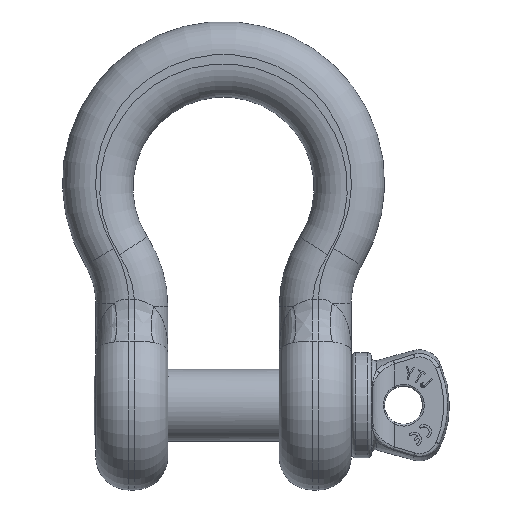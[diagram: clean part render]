
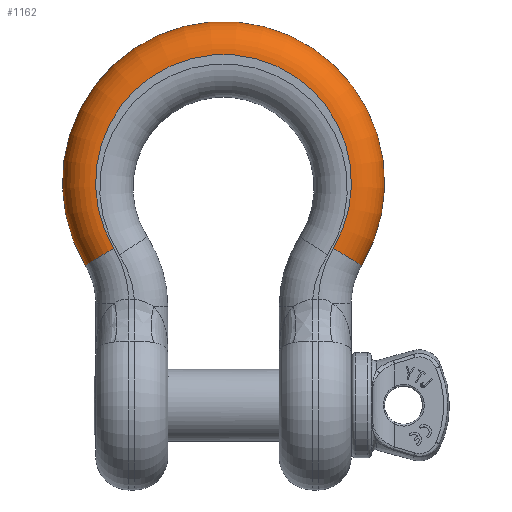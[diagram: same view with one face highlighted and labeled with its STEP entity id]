
A CAD part, top view. The second image highlights one B-rep face of the part: STEP entity #1162.
In plain terms, the highlighted toroidal (fillet/blend) face has major radius 69.5 mm and minor radius 18 mm.
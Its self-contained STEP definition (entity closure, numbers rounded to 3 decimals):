
#592=FACE_OUTER_BOUND('',#2918,.T.);
#920=TOROIDAL_SURFACE('',#10323,69.5,18.);
#1162=ADVANCED_FACE('',(#592),#920,.T.);
#2918=EDGE_LOOP('',(#5825,#5826,#5827,#5828));
#5825=ORIENTED_EDGE('',*,*,#9183,.T.);
#5826=ORIENTED_EDGE('',*,*,#9128,.F.);
#5827=ORIENTED_EDGE('',*,*,#9190,.F.);
#5828=ORIENTED_EDGE('',*,*,#9143,.F.);
#7959=VERTEX_POINT('',#19367);
#7960=VERTEX_POINT('',#19369);
#7970=VERTEX_POINT('',#19396);
#7971=VERTEX_POINT('',#19400);
#9128=EDGE_CURVE('',#7959,#7960,#9907,.T.);
#9143=EDGE_CURVE('',#7971,#7970,#9915,.T.);
#9183=EDGE_CURVE('',#7971,#7960,#9934,.T.);
#9190=EDGE_CURVE('',#7970,#7959,#9935,.T.);
#9907=CIRCLE('',#10278,69.5);
#9915=CIRCLE('',#10289,87.5);
#9934=CIRCLE('',#10319,18.);
#9935=CIRCLE('',#10322,18.);
#10278=AXIS2_PLACEMENT_3D('',#19368,#11419,#11420);
#10289=AXIS2_PLACEMENT_3D('',#19401,#11447,#11448);
#10319=AXIS2_PLACEMENT_3D('',#19506,#11522,#11523);
#10322=AXIS2_PLACEMENT_3D('',#19545,#11528,#11529);
#10323=AXIS2_PLACEMENT_3D('',#19546,#11530,#11531);
#11419=DIRECTION('',(0.,0.,1.));
#11420=DIRECTION('',(-1.,0.,0.));
#11447=DIRECTION('',(0.,0.,-1.));
#11448=DIRECTION('',(-1.,0.,0.));
#11522=DIRECTION('',(-0.514,0.858,0.));
#11523=DIRECTION('',(-0.858,-0.514,0.));
#11528=DIRECTION('',(-0.514,-0.858,0.));
#11529=DIRECTION('',(0.858,-0.514,0.));
#11530=DIRECTION('',(0.,0.,-1.));
#11531=DIRECTION('',(-1.,0.,0.));
#19367=CARTESIAN_POINT('',(58.606,-35.74,19.55));
#19368=CARTESIAN_POINT('',(-1.,0.,19.55));
#19369=CARTESIAN_POINT('',(-60.606,-35.74,19.55));
#19396=CARTESIAN_POINT('',(74.044,-44.996,1.55));
#19400=CARTESIAN_POINT('',(-76.044,-44.996,1.55));
#19401=CARTESIAN_POINT('',(-1.,0.,1.55));
#19506=CARTESIAN_POINT('',(-60.606,-35.74,1.55));
#19545=CARTESIAN_POINT('',(58.606,-35.74,1.55));
#19546=CARTESIAN_POINT('',(-1.,0.,1.55));
